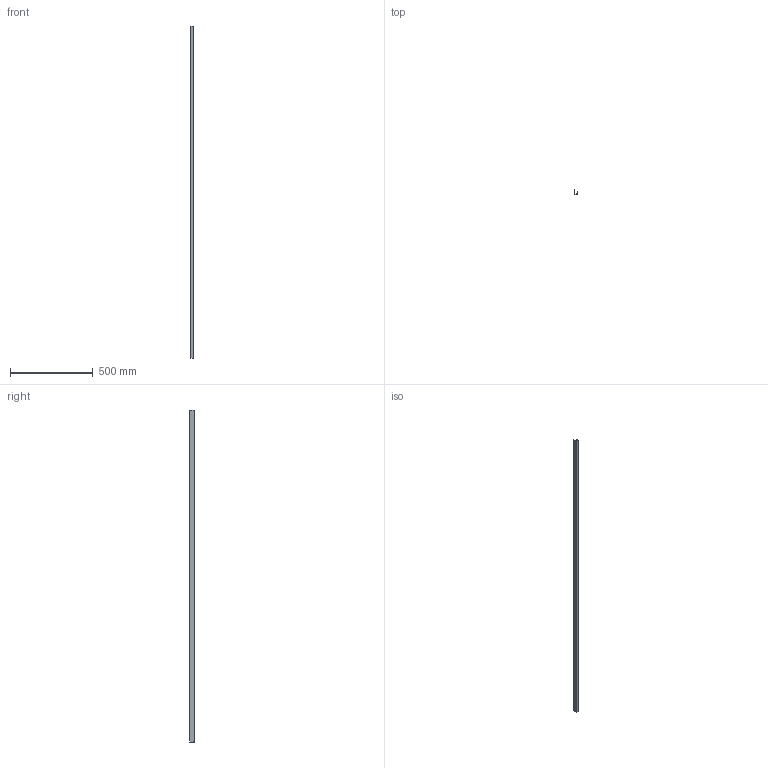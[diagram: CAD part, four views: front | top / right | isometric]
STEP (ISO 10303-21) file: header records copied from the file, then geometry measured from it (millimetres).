
FILE_DESCRIPTION (( 'STEP AP203' ), '1' );
FILE_NAME ('M01D.STEP', '2018-06-19T14:39:30', ( 'Michael Moliner' ), ( '' ), 'SwSTEP 2.0', 'SolidWorks 2018', '' );
FILE_SCHEMA (( 'CONFIG_CONTROL_DESIGN' ));
Length unit declared in the file: inch
Products named in the file (2): M01D
Bounding box: 16.67 x 28.57 x 2000 mm (x, y, z)
Volume: 63915.2 mm3; surface area: 253730.5 mm2
Topology: 1 solids, 1 shells, 18 faces, 48 edges, 32 vertices
Faces by surface type: plane 12, cylinder 6
Entity records: 721 total; most frequent: CARTESIAN_POINT 100, DIRECTION 100, ORIENTED_EDGE 96, EDGE_CURVE 48, LINE 36, VECTOR 36, AXIS2_PLACEMENT_3D 32, VERTEX_POINT 32
